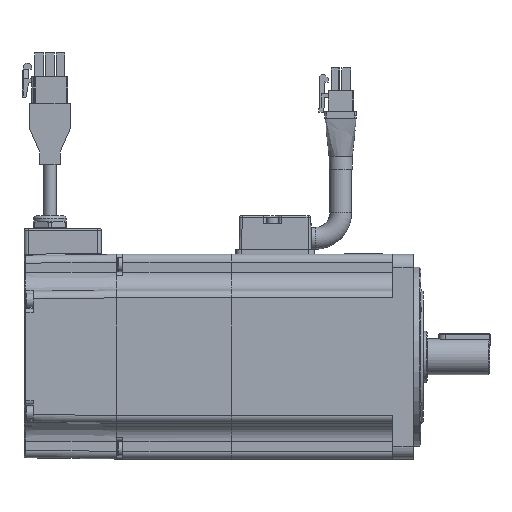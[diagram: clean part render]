
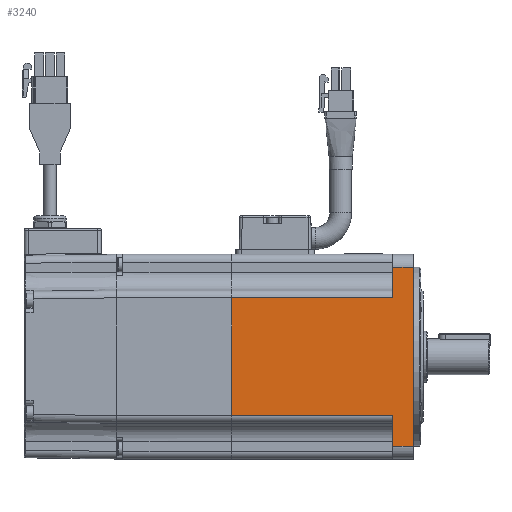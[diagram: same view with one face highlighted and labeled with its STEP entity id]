
A CAD part, left-side view. The second image highlights one B-rep face of the part: STEP entity #3240.
In plain terms, the highlighted planar face has unit normal (-1, 0, 0).
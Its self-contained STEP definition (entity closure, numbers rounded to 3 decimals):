
#3240 = ADVANCED_FACE( '', ( #7618 ), #7619, .T. );
#7618 = FACE_OUTER_BOUND( '', #14492, .T. );
#7619 = PLANE( '', #14493 );
#14492 = EDGE_LOOP( '', ( #27429, #27430, #27431, #27432, #27433, #27434, #27435, #27436 ) );
#14493 = AXIS2_PLACEMENT_3D( '', #27437, #27438, #27439 );
#27429 = ORIENTED_EDGE( '', *, *, #45099, .F. );
#27430 = ORIENTED_EDGE( '', *, *, #45100, .T. );
#27431 = ORIENTED_EDGE( '', *, *, #45101, .F. );
#27432 = ORIENTED_EDGE( '', *, *, #45102, .T. );
#27433 = ORIENTED_EDGE( '', *, *, #45103, .F. );
#27434 = ORIENTED_EDGE( '', *, *, #45104, .T. );
#27435 = ORIENTED_EDGE( '', *, *, #45105, .F. );
#27436 = ORIENTED_EDGE( '', *, *, #45106, .T. );
#27437 = CARTESIAN_POINT( '', ( -40., 197.846, 40. ) );
#27438 = DIRECTION( '', ( -1., 0., 0. ) );
#27439 = DIRECTION( '', ( 0., 0., 1. ) );
#45099 = EDGE_CURVE( '', #52755, #52756, #52757, .T. );
#45100 = EDGE_CURVE( '', #52755, #52758, #52759, .F. );
#45101 = EDGE_CURVE( '', #52760, #52758, #52761, .T. );
#45102 = EDGE_CURVE( '', #52760, #52762, #52763, .T. );
#45103 = EDGE_CURVE( '', #52764, #52762, #52765, .T. );
#45104 = EDGE_CURVE( '', #52764, #52766, #52767, .F. );
#45105 = EDGE_CURVE( '', #52768, #52766, #52769, .T. );
#45106 = EDGE_CURVE( '', #52768, #52756, #52770, .T. );
#52755 = VERTEX_POINT( '', #62901 );
#52756 = VERTEX_POINT( '', #62902 );
#52757 = LINE( '', #62903, #62904 );
#52758 = VERTEX_POINT( '', #62905 );
#52759 = LINE( '', #62906, #62907 );
#52760 = VERTEX_POINT( '', #62908 );
#52761 = LINE( '', #62909, #62910 );
#52762 = VERTEX_POINT( '', #62911 );
#52763 = LINE( '', #62912, #62913 );
#52764 = VERTEX_POINT( '', #62914 );
#52765 = LINE( '', #62915, #62916 );
#52766 = VERTEX_POINT( '', #62917 );
#52767 = LINE( '', #62918, #62919 );
#52768 = VERTEX_POINT( '', #62920 );
#52769 = LINE( '', #62921, #62922 );
#52770 = LINE( '', #62923, #62924 );
#62901 = CARTESIAN_POINT( '', ( -40., 71.81, -23. ) );
#62902 = CARTESIAN_POINT( '', ( -40., 71.81, 23. ) );
#62903 = CARTESIAN_POINT( '', ( -40., 71.81, 40. ) );
#62904 = VECTOR( '', #81192, 1000. );
#62905 = CARTESIAN_POINT( '', ( -40., 8.81, -23. ) );
#62906 = CARTESIAN_POINT( '', ( -40., 197.846, -23. ) );
#62907 = VECTOR( '', #81193, 1000. );
#62908 = CARTESIAN_POINT( '', ( -40., 8.81, -35. ) );
#62909 = CARTESIAN_POINT( '', ( -40., 8.81, 40. ) );
#62910 = VECTOR( '', #81194, 1000. );
#62911 = CARTESIAN_POINT( '', ( -40., 0.81, -35. ) );
#62912 = CARTESIAN_POINT( '', ( -40., 197.846, -35. ) );
#62913 = VECTOR( '', #81195, 1000. );
#62914 = CARTESIAN_POINT( '', ( -40., 0.81, 35. ) );
#62915 = CARTESIAN_POINT( '', ( -40., 0.81, 40. ) );
#62916 = VECTOR( '', #81196, 1000. );
#62917 = CARTESIAN_POINT( '', ( -40., 8.81, 35. ) );
#62918 = CARTESIAN_POINT( '', ( -40., 197.846, 35. ) );
#62919 = VECTOR( '', #81197, 1000. );
#62920 = CARTESIAN_POINT( '', ( -40., 8.81, 23. ) );
#62921 = CARTESIAN_POINT( '', ( -40., 8.81, 40. ) );
#62922 = VECTOR( '', #81198, 1000. );
#62923 = CARTESIAN_POINT( '', ( -40., 197.846, 23. ) );
#62924 = VECTOR( '', #81199, 1000. );
#81192 = DIRECTION( '', ( 0., 0., 1. ) );
#81193 = DIRECTION( '', ( 0., 1., 0. ) );
#81194 = DIRECTION( '', ( 0., 0., 1. ) );
#81195 = DIRECTION( '', ( 0., -1., 0. ) );
#81196 = DIRECTION( '', ( 0., 0., -1. ) );
#81197 = DIRECTION( '', ( 0., -1., 0. ) );
#81198 = DIRECTION( '', ( 0., 0., 1. ) );
#81199 = DIRECTION( '', ( 0., 1., 0. ) );
